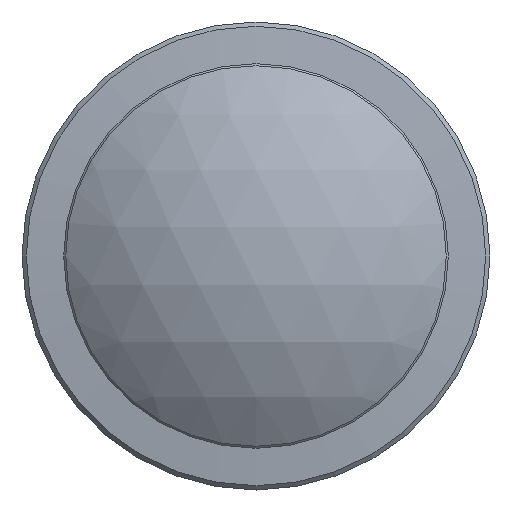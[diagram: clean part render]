
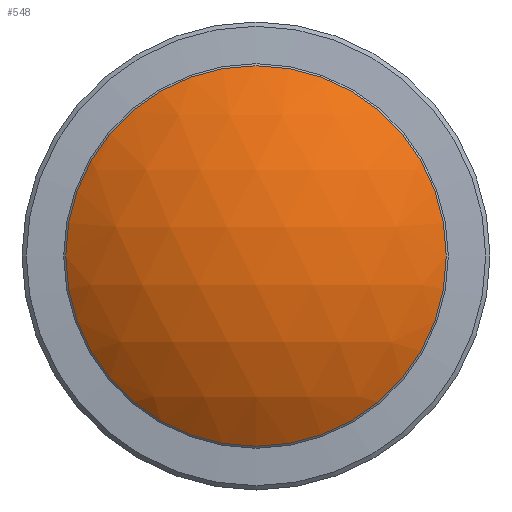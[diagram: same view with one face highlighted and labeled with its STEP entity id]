
A CAD part, front view. The second image highlights one B-rep face of the part: STEP entity #548.
In plain terms, the highlighted spherical face has radius 15.597 mm.
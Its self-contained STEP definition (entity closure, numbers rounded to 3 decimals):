
#64=ORIENTED_EDGE('',*,*,#124,.T.);
#124=EDGE_CURVE('',#154,#154,#184,.T.);
#154=VERTEX_POINT('',#802);
#184=CIRCLE('',#600,9.35);
#214=EDGE_LOOP('',(#64));
#274=FACE_BOUND('',#214,.T.);
#320=SPHERICAL_SURFACE('',#599,15.597);
#548=ADVANCED_FACE('',(#274),#320,.T.);
#599=AXIS2_PLACEMENT_3D('',#800,#685,#686);
#600=AXIS2_PLACEMENT_3D('',#801,#687,#688);
#685=DIRECTION('',(0.,0.,1.));
#686=DIRECTION('',(-0.607,-0.795,0.));
#687=DIRECTION('',(0.,-1.,0.));
#688=DIRECTION('',(0.,0.,1.));
#800=CARTESIAN_POINT('',(0.,-11.06,0.));
#801=CARTESIAN_POINT('',(0.,-23.544,0.));
#802=CARTESIAN_POINT('',(0.,-23.544,9.35));
